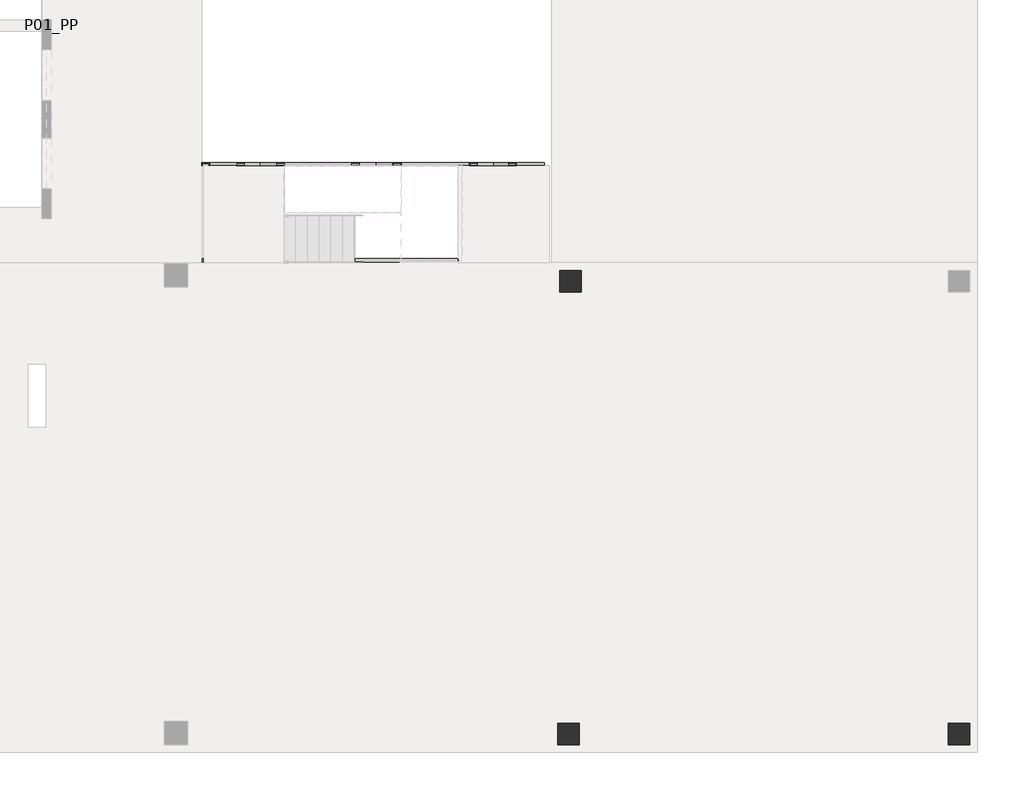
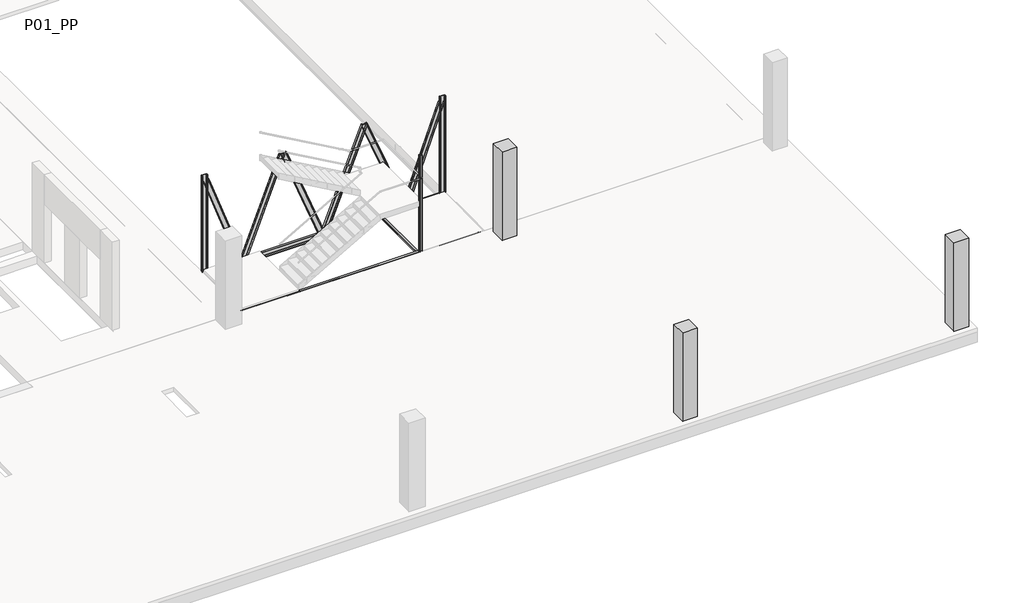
# One storey, part 3 of 8: 23 beams, 6 columns.
"""IFC4 building model written with IfcOpenShell, lengths in millimetres."""

from ifc_helpers import new_model, si_unit, frame, origin, place, context, project, spatial, polyline, circle_curve, ellipse_curve, outline, extrude, faceted_brep, transform, mapped, element, save
from ifc_brep_helpers import plane_surface, cylinder_surface, revolved_surface, advanced_brep
from components import ub_universal_beams_ipe_200x100_3e5072df, ub_universal_beams_ipe_200x100_6cde27da, ub_universal_beams_ipe_200x100_60d02f98, upn200x75_963e3bf5, upn200x75_de95b273, rhs_rectangular_hollow_section_column_100x80x5_0rhs_85d3d898, upn_200x75_fcc0ec56

model = new_model("IFC4")

# Units and contexts
model_context = context("Model", 3, world=origin())
ifc_project = project(units=[si_unit("LENGTHUNIT", "METRE", prefix="MILLI")], contexts=[model_context])

# Site, building, storey
site = spatial("IfcSite", under=ifc_project)
building = spatial("IfcBuilding", under=site)
storey = spatial("IfcBuildingStorey", under=building, Name="P01_PP", Elevation=11160.0)

# Beams
placement = place(None, origin())
element("IfcBeam", 1, ObjectType="M_Concrete-Rectangular Beam : 1500 x 550mm", at=placement, inside=storey, context=model_context, shape_type="AdvancedBrep", body=[
    advanced_brep(
    [(16958.7687297, -15610.5871866, 10610.0), (16958.7687297, -4560.5861501, 10610.0), (16958.7687297, -4560.5861501, 11010.0), (16958.7687297, -15610.5871866, 11010.0), (15458.7687297, -15610.5871866, 10610.0), (15458.7687297, -6060.5861501, 10610.0), (15458.7687297, -4560.5861501, 10610.0), (16808.3355556, -5035.6050875, 10610.0), (16158.3355556, -5035.6050875, 10610.0), (15458.7687297, -15610.5871866, 11010.0), (15458.7687297, -6060.5861501, 11010.0), (15458.7687297, -4560.5861501, 11010.0), (16808.3355556, -5035.6050875, 10860.0), (16158.3355556, -5035.6050875, 10860.0)],
    [
        (0, 1),
        (1, 2),
        (2, 3),
        (3, 0),
        (0, 4),
        (4, 5),
        (5, 6),
        (6, 1),
        (7, 8, circle_curve(frame((16483.3355556, -5035.6050875, 10610.0), z_axis=(0.0, 0.0, 1.0), x_axis=(1.0, 0.0, 0.0)), 325.0)),
        (8, 7, circle_curve(frame((16483.3355556, -5035.6050875, 10610.0), z_axis=(0.0, 0.0, 1.0), x_axis=(1.0, 0.0, 0.0)), 325.0)),
        (4, 9),
        (9, 10),
        (10, 11),
        (11, 6),
        (3, 9),
        (11, 2),
        (12, 13, circle_curve(frame((16483.3355556, -5035.6050875, 10860.0), z_axis=(0.0, 0.0, 1.0), x_axis=(1.0, 0.0, 0.0)), 325.0)),
        (13, 8),
        (7, 12),
        (13, 12, circle_curve(frame((16483.3355556, -5035.6050875, 10860.0), z_axis=(0.0, 0.0, 1.0), x_axis=(1.0, 0.0, 0.0)), 325.0)),
    ],
    [
        plane_surface(frame((16958.7687297, -6073.2861501, 11160.0), z_axis=(1.0, 0.0, 0.0), x_axis=(0.0, -1.0, 0.0))),
        plane_surface(frame((16958.7687297, -6073.2861501, 10610.0), z_axis=(0.0, 0.0, -1.0), x_axis=(0.0, -1.0, 0.0))),
        plane_surface(frame((15458.7687297, -6073.2861501, 10610.0), z_axis=(-1.0, 0.0, 0.0), x_axis=(0.0, -1.0, 0.0))),
        plane_surface(frame((-32477.5931093, -15610.5871866, 10885.0), z_axis=(0.0, -1.0, 0.0), x_axis=(0.0, 0.0, 1.0))),
        plane_surface(frame((16982.6978133, -4560.5861501, 10610.0), z_axis=(0.0, 1.0, 0.0), x_axis=(-1.0, 0.0, 0.0))),
        revolved_surface(polyline([(16808.3355556, -5035.6050875, 10860.0), (16808.3355556, -5035.6050875, 10610.0)]), (16483.3355556, -5035.6050875, 5480.0), (0.0, 0.0, 1.0)),
        plane_surface(frame((16808.3355556, -5035.6050875, 10860.0), z_axis=(0.0, 0.0, -1.0), x_axis=(0.0, 1.0, 0.0))),
        plane_surface(frame((-33190.2931093, -4560.5861796, 11010.0), z_axis=(0.0, 0.0, 1.0), x_axis=(0.0, 1.0, 0.0))),
    ],
    [
        (0, [[1, 2, 3, 4]]),
        (1, [[5, 6, 7, 8, -1], [9, 10]]),
        (2, [[-7, -6, 11, 12, 13, 14]]),
        (3, [[-5, -4, 15, -11]]),
        (4, [[-8, -14, 16, -2]]),
        (5, [[17, 18, -9, 19]]),
        (5, [[20, -19, -10, -18]]),
        (6, [[-17, -20]]),
        (7, [[-3, -16, -13, -12, -15]]),
    ],
),
])
element("IfcBeam", 2, ObjectType="M_Concrete-Rectangular Beam : 400 x 550mm", at=placement, inside=storey, context=model_context, shape_type="SweptSolid", body=[
    extrude(outline(polyline([(850.3958139, -15610.5871866), (450.3958139, -15610.5871866), (450.3958139, -6060.5861501), (850.3958139, -6060.5861501), (850.3958139, -15610.5871866)])), frame((0.0, 0.0, 10610.0), z_axis=(0.0, 0.0, 1.0), x_axis=(1.0, 0.0, 0.0)), (0.0, 0.0, 1.0), 400.0),
])
element("IfcBeam", 3, ObjectType="M_Concrete-Rectangular Beam : 400 x 550mm", at=placement, inside=storey, context=model_context, shape_type="SweptSolid", body=[
    extrude(outline(polyline([(2517.0624776, -15610.5871866), (2117.0624776, -15610.5871866), (2117.0624776, -6060.5861501), (2517.0624776, -6060.5861501), (2517.0624776, -15610.5871866)])), frame((0.0, 0.0, 10610.0), z_axis=(0.0, 0.0, 1.0), x_axis=(1.0, 0.0, 0.0)), (0.0, 0.0, 1.0), 400.0),
])
element("IfcBeam", 4, ObjectType="M_Concrete-Rectangular Beam : 400 x 550mm", at=placement, inside=storey, context=model_context, shape_type="SweptSolid", body=[
    extrude(outline(polyline([(4183.7291418, -15610.5871866), (3783.7291418, -15610.5871866), (3783.7291418, -6060.5861501), (4183.7291418, -6060.5861501), (4183.7291418, -15610.5871866)])), frame((0.0, 0.0, 10610.0), z_axis=(0.0, 0.0, 1.0), x_axis=(1.0, 0.0, 0.0)), (0.0, 0.0, 1.0), 400.0),
])
element("IfcBeam", 5, ObjectType="M_Concrete-Rectangular Beam : 400 x 550mm", at=placement, inside=storey, context=model_context, shape_type="SweptSolid", body=[
    extrude(outline(polyline([(5850.3958055, -15610.5871866), (5450.3958055, -15610.5871866), (5450.3958055, -6060.5861501), (5850.3958055, -6060.5861501), (5850.3958055, -15610.5871866)])), frame((0.0, 0.0, 10610.0), z_axis=(0.0, 0.0, 1.0), x_axis=(1.0, 0.0, 0.0)), (0.0, 0.0, 1.0), 400.0),
])
element("IfcBeam", 6, ObjectType="M_Concrete-Rectangular Beam : 400 x 550mm", at=placement, inside=storey, context=model_context, shape_type="SweptSolid", body=[
    extrude(outline(polyline([(7517.0624701, -15610.5871866), (7117.0624701, -15610.5871866), (7117.0624701, -6060.5861501), (7517.0624701, -6060.5861501), (7517.0624701, -15610.5871866)])), frame((0.0, 0.0, 10610.0), z_axis=(0.0, 0.0, 1.0), x_axis=(1.0, 0.0, 0.0)), (0.0, 0.0, 1.0), 400.0),
])
element("IfcBeam", 7, ObjectType="M_Concrete-Rectangular Beam : 400 x 550mm", at=placement, inside=storey, context=model_context, shape_type="SweptSolid", body=[
    extrude(outline(polyline([(9183.7291339, -15610.5871866), (8783.7291339, -15610.5871866), (8783.7291339, -6060.5861501), (9183.7291339, -6060.5861501), (9183.7291339, -15610.5871866)])), frame((0.0, 0.0, 10610.0), z_axis=(0.0, 0.0, 1.0), x_axis=(1.0, 0.0, 0.0)), (0.0, 0.0, 1.0), 400.0),
])
element("IfcBeam", 8, ObjectType="M_Concrete-Rectangular Beam : 400 x 550mm", at=placement, inside=storey, context=model_context, shape_type="SweptSolid", body=[
    extrude(outline(polyline([(10850.3957976, -15610.5871866), (10450.3957976, -15610.5871866), (10450.3957976, -6060.5861501), (10850.3957976, -6060.5861501), (10850.3957976, -15610.5871866)])), frame((0.0, 0.0, 10610.0), z_axis=(0.0, 0.0, 1.0), x_axis=(1.0, 0.0, 0.0)), (0.0, 0.0, 1.0), 400.0),
])
element("IfcBeam", 9, ObjectType="M_Concrete-Rectangular Beam : 400 x 550mm", at=placement, inside=storey, context=model_context, shape_type="SweptSolid", body=[
    extrude(outline(polyline([(12517.0624618, -15610.5871866), (12117.0624618, -15610.5871866), (12117.0624618, -6060.5861501), (12517.0624618, -6060.5861501), (12517.0624618, -15610.5871866)])), frame((0.0, 0.0, 10610.0), z_axis=(0.0, 0.0, 1.0), x_axis=(1.0, 0.0, 0.0)), (0.0, 0.0, 1.0), 400.0),
])
element("IfcBeam", 10, ObjectType="M_Concrete-Rectangular Beam : 400 x 550mm", at=placement, inside=storey, context=model_context, shape_type="SweptSolid", body=[
    extrude(outline(polyline([(14183.7291255, -15610.5871866), (13783.7291255, -15610.5871866), (13783.7291255, -6060.5861501), (14183.7291255, -6060.5861501), (14183.7291255, -15610.5871866)])), frame((0.0, 0.0, 10610.0), z_axis=(0.0, 0.0, 1.0), x_axis=(1.0, 0.0, 0.0)), (0.0, 0.0, 1.0), 400.0),
])
ub_universal_beams_ipe_200x100_shape = ub_universal_beams_ipe_200x100_3e5072df(model_context)
element("IfcBeam", 11, ObjectType="UB-Universal Beams : IPE 200x100", at=placement, inside=storey, context=model_context, shape_type="MappedRepresentation", body=[
    mapped(ub_universal_beams_ipe_200x100_shape, transform((5938.4982342, -3692.7089735, 11060.0), x_axis=(0.0, 1.0, 0.0), y_axis=(-1.0, 0.0, 0.0), z_axis=(0.0, 0.0, 1.0))),
])
ub_universal_beams_ipe_200x100_2_shape = ub_universal_beams_ipe_200x100_6cde27da(model_context)
element("IfcBeam", 12, ObjectType="UB-Universal Beams : IPE 200x100", at=placement, inside=storey, context=model_context, shape_type="MappedRepresentation", body=[
    mapped(ub_universal_beams_ipe_200x100_2_shape, transform((-861.4958562, -3698.1725705, 11060.0), x_axis=(0.0, 1.0, 0.0), y_axis=(-1.0, 0.0, 0.0), z_axis=(0.0, 0.0, 1.0))),
])
element("IfcBeam", 13, ObjectType="UB-Universal Beams : IPE 200x100", at=placement, inside=storey, context=model_context, shape_type="MappedRepresentation", body=[
    mapped(ub_universal_beams_ipe_200x100_2_shape, transform((3714.2873994, -3698.1725705, 11060.0), x_axis=(0.0, 1.0, 0.0), y_axis=(-1.0, 0.0, 0.0), z_axis=(0.0, 0.0, 1.0))),
])
element("IfcBeam", 14, ObjectType="UB-Universal Beams : IPE 200x100", at=placement, inside=storey, context=model_context, shape_type="MappedRepresentation", body=[
    mapped(ub_universal_beams_ipe_200x100_2_shape, transform((4826.3953909, -3698.1725705, 11060.0), x_axis=(0.0, 1.0, 0.0), y_axis=(-1.0, 0.0, 0.0), z_axis=(0.0, 0.0, 1.0))),
])
element("IfcBeam", 15, ObjectType="UB-Universal Beams : IPE 200x100", at=placement, inside=storey, context=model_context, shape_type="MappedRepresentation", body=[
    mapped(ub_universal_beams_ipe_200x100_2_shape, transform((-1511.4958562, -3698.1725705, 11060.0), x_axis=(0.0, 1.0, 0.0), y_axis=(-1.0, 0.0, 0.0), z_axis=(0.0, 0.0, 1.0))),
])
ub_universal_beams_ipe_200x100_3_shape = ub_universal_beams_ipe_200x100_60d02f98(model_context)
element("IfcBeam", 16, ObjectType="UB-Universal Beams : IPE 200x100", at=placement, inside=storey, context=model_context, shape_type="MappedRepresentation", body=[
    mapped(ub_universal_beams_ipe_200x100_3_shape, transform((1299.9319648, -4509.6213025, 11060.0), x_axis=(-1.0, 0.0, 0.0), y_axis=(0.0, -1.0, 0.0), z_axis=(0.0, 0.0, 1.0))),
])
element("IfcBeam", 17, ObjectType="M_MC Shapes : UPN200x75", at=placement, inside=storey, context=model_context, shape_type="AdvancedBrep", body=[
    advanced_brep(
    [(6004.0962238, -1999.8318856, 14677.0231066), (5816.4399019, -1999.8318792, 14746.1975588), (5816.4398993, -2074.8318792, 14746.1975588), (5817.3544192, -2074.8318792, 14745.8604457), (5821.0102045, -2071.5312566, 14744.5128389), (5830.4787586, -2010.9831252, 14741.022512), (5837.7903291, -2004.3818799, 14738.3272984), (5982.7457963, -2004.3818849, 14684.893367), (5990.0573664, -2010.9831306, 14682.1981534), (5999.5259163, -2071.5312627, 14678.7078265), (6003.1817014, -2074.8318856, 14677.3602197), (6004.0962213, -2074.8318856, 14677.0231066), (4457.5086957, -1999.8318327, 11059.6915777), (4672.3717464, -1999.83184, 11064.3234872), (4457.5086931, -2074.8318327, 11059.6915777), (4458.5558016, -2074.8318327, 11059.7141507), (4462.7416088, -2071.5312101, 11059.8043862), (4473.5829295, -2010.9830787, 11060.038098), (4481.9545438, -2004.3818335, 11060.218569), (4647.925898, -2004.3818392, 11063.7964959), (4656.2975118, -2010.9830849, 11063.976967), (4667.1388283, -2071.5312171, 11064.2106786), (4671.3246353, -2074.83184, 11064.3009141), (4672.3717438, -2074.83184, 11064.3234871)],
    [
        (0, 1),
        (1, 2),
        (2, 3),
        (3, 4, circle_curve(frame((5817.3544194, -2070.8818792, 14745.8604457), z_axis=(0.34587226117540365, -1.1846646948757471e-08, 0.9382816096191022), x_axis=(-3.425150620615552e-08, -0.9999999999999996, 0.0)), 3.95)),
        (4, 5),
        (5, 6, circle_curve(frame((5837.7903289, -2012.2818799, 14738.3272984), z_axis=(-0.34587226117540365, 1.1846646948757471e-08, -0.9382816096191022), x_axis=(-3.425150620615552e-08, -0.9999999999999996, 0.0)), 7.9)),
        (6, 7),
        (7, 8, circle_curve(frame((5982.745796, -2012.2818849, 14684.893367), z_axis=(-0.34587226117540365, 1.1846646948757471e-08, -0.9382816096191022), x_axis=(-3.425150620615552e-08, -0.9999999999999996, 0.0)), 7.9)),
        (8, 9),
        (9, 10, circle_curve(frame((6003.1817015, -2070.8818856, 14677.3602197), z_axis=(0.34587226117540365, -1.1846646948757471e-08, 0.9382816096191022), x_axis=(-3.425150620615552e-08, -0.9999999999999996, 0.0)), 3.95)),
        (10, 11),
        (11, 0),
        (12, 1),
        (0, 13),
        (13, 12),
        (14, 2),
        (12, 14),
        (15, 3),
        (14, 15),
        (16, 4),
        (15, 16, ellipse_curve(frame((4458.5558018, -2070.8818327, 11059.7141507), z_axis=(-0.02155248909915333, -7.189119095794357e-12, 0.9997677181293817), x_axis=(-0.9997677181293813, 3.23483511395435e-08, -0.021552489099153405)), 4.2445312, 3.95)),
        (16, 17),
        (17, 5),
        (18, 6),
        (17, 18, ellipse_curve(frame((4481.9545435, -2012.2818335, 11060.218569), z_axis=(0.02155248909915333, 7.189119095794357e-12, -0.9997677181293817), x_axis=(0.9997677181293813, -3.23483511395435e-08, 0.021552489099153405)), 8.4890624, 7.9)),
        (19, 7),
        (18, 19),
        (20, 8),
        (19, 20, ellipse_curve(frame((4647.9258977, -2012.2818392, 11063.7964959), z_axis=(0.02155248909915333, 7.189119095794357e-12, -0.9997677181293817), x_axis=(0.9997677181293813, -3.23483511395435e-08, 0.021552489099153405)), 8.4890624, 7.9)),
        (20, 21),
        (21, 9),
        (22, 10),
        (21, 22, ellipse_curve(frame((4671.3246354, -2070.88184, 11064.3009141), z_axis=(-0.02155248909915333, -7.189119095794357e-12, 0.9997677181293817), x_axis=(-0.9997677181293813, 3.23483511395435e-08, -0.021552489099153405)), 4.2445312, 3.95)),
        (23, 11),
        (22, 23),
        (23, 13),
    ],
    [
        plane_surface(frame((5910.2680625, -2010.7318824, 14711.6103327), z_axis=(0.3458722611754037, -1.1846646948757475e-08, 0.9382816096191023), x_axis=(0.9382816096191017, -3.2137557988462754e-08, -0.3458722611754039))),
        plane_surface(frame((4658.0997322, -1999.8318395, 11025.6063946), z_axis=(3.425150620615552e-08, 0.9999999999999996, 0.0), x_axis=(0.34587226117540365, -1.1846646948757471e-08, 0.9382816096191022))),
        plane_surface(frame((4470.4434103, -1999.8318331, 11094.7808468), z_axis=(-0.9382816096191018, 3.213755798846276e-08, 0.3458722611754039), x_axis=(0.34587226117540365, -1.1846646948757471e-08, 0.9382816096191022))),
        plane_surface(frame((4470.4434078, -2074.8318331, 11094.7808468), z_axis=(-3.425150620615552e-08, -0.9999999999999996, 0.0), x_axis=(0.34587226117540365, -1.1846646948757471e-08, 0.9382816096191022))),
        cylinder_surface(frame((4471.3579278, -2070.8818331, 11094.4437337), z_axis=(-0.34587226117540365, 1.1846646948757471e-08, -0.9382816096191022), x_axis=(-3.425150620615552e-08, -0.9999999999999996, 0.0)), 3.95),
        plane_surface(frame((4477.8558332, -2053.3568334, 11092.048456), z_axis=(0.9255152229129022, -0.16439933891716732, -0.34116627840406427), x_axis=(0.34587226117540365, -1.1846646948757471e-08, 0.9382816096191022))),
        revolved_surface(polyline([(5837.790328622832, -2020.1818799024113, 14738.327298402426), (4480.8798774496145, -2020.1818334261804, 11057.303217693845)]), (4491.7938373, -2012.2818338, 11086.9105864), (0.34587226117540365, -1.1846646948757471e-08, 0.9382816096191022)),
        plane_surface(frame((4491.7938375, -2004.3818338, 11086.9105864), z_axis=(-3.425150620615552e-08, -0.9999999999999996, 0.0), x_axis=(0.34587226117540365, -1.1846646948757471e-08, 0.9382816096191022))),
        revolved_surface(polyline([(5982.745795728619, -2020.1818849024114, 14684.893367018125), (4646.851231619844, -2020.1818391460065, 11060.881144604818)]), (4636.7493044, -2012.2818388, 11033.476655), (0.34587226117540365, -1.1846646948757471e-08, 0.9382816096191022)),
        plane_surface(frame((4650.6873057, -2053.3568393, 11028.3387854), z_axis=(-0.9255152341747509, -0.1643992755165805, 0.3411662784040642), x_axis=(0.34587226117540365, -1.1846646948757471e-08, 0.9382816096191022))),
        cylinder_surface(frame((4657.1852099, -2070.8818395, 11025.9435077), z_axis=(-0.34587226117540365, 1.1846646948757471e-08, -0.9382816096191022), x_axis=(-3.425150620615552e-08, -0.9999999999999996, 0.0)), 3.95),
        plane_surface(frame((4657.1852098, -2074.8318395, 11025.9435077), z_axis=(-3.425150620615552e-08, -0.9999999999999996, 0.0), x_axis=(0.34587226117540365, -1.1846646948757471e-08, 0.9382816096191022))),
        plane_surface(frame((4658.0997297, -2074.8318395, 11025.6063946), z_axis=(0.9382816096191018, -3.213755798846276e-08, -0.3458722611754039), x_axis=(0.34587226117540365, -1.1846646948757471e-08, 0.9382816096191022))),
        plane_surface(frame((4672.3717458, -2010.73184, 11064.3234872), z_axis=(0.02155248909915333, 7.189119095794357e-12, -0.9997677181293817), x_axis=(0.9997677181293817, 0.0, 0.02155248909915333))),
    ],
    [
        (0, [[1, 2, 3, 4, 5, 6, 7, 8, 9, 10, 11, 12]]),
        (1, [[13, -1, 14, 15]]),
        (2, [[16, -2, -13, 17]]),
        (3, [[18, -3, -16, 19]]),
        (4, [[20, -4, -18, 21]]),
        (5, [[22, 23, -5, -20]]),
        (6, [[24, -6, -23, 25]]),
        (7, [[26, -7, -24, 27]]),
        (8, [[28, -8, -26, 29]]),
        (9, [[30, 31, -9, -28]]),
        (10, [[32, -10, -31, 33]]),
        (11, [[34, -11, -32, 35]]),
        (12, [[-14, -12, -34, 36]]),
        (13, [[-36, -35, -33, -30, -29, -27, -25, -22, -21, -19, -17, -15]]),
    ],
),
])
element("IfcBeam", 18, ObjectType="M_MC Shapes : UPN200x75", at=placement, inside=storey, context=model_context, shape_type="AdvancedBrep", body=[
    advanced_brep(
    [(3164.3827197, -1999.831887, 14772.8562513), (2978.7028505, -1999.8318812, 14847.1730474), (2978.7028482, -2074.8318812, 14847.1730474), (2979.6077361, -2074.8318812, 14846.8108737), (2983.2250175, -2071.5312586, 14845.3630874), (2992.5938458, -2010.9831271, 14841.613294), (2999.8284086, -2004.3818818, 14838.7177215), (3143.2571613, -2004.3818863, 14781.3115772), (3150.4917237, -2010.983132, 14778.4160047), (3159.8605482, -2071.5312641, 14774.6662112), (3163.4778295, -2074.8318869, 14773.218425), (3164.3827174, -2074.831887, 14772.8562513), (1462.7731108, -1999.8318339, 11059.6357682), (1680.1857167, -1999.8318407, 11064.602939), (1462.7731084, -2074.8318339, 11059.6357681), (1463.8326419, -2074.831834, 11059.659975), (1468.0681176, -2071.5312114, 11059.7567419), (1479.0380807, -2010.9830799, 11060.0073698), (1487.5090322, -2004.3818347, 11060.2009035), (1655.449795, -2004.3818399, 11064.0378037), (1663.9207461, -2010.9830857, 11064.2313374), (1674.8907054, -2071.5312178, 11064.4819653), (1679.1261809, -2074.8318407, 11064.5787321), (1680.1857143, -2074.8318407, 11064.602939)],
    [
        (0, 1),
        (1, 2),
        (2, 3),
        (3, 4, circle_curve(frame((2979.6077362, -2070.8818812, 14846.8108737), z_axis=(0.37158398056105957, -1.1582592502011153e-08, 0.9283993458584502), x_axis=(-3.117085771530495e-08, -0.9999999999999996, 0.0)), 3.95)),
        (4, 5),
        (5, 6, circle_curve(frame((2999.8284084, -2012.2818818, 14838.7177215), z_axis=(-0.37158398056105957, 1.1582592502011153e-08, -0.9283993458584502), x_axis=(-3.117085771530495e-08, -0.9999999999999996, 0.0)), 7.9)),
        (6, 7),
        (7, 8, circle_curve(frame((3143.257161, -2012.2818863, 14781.3115772), z_axis=(-0.37158398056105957, 1.1582592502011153e-08, -0.9283993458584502), x_axis=(-3.117085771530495e-08, -0.9999999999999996, 0.0)), 7.9)),
        (8, 9),
        (9, 10, circle_curve(frame((3163.4778296, -2070.8818869, 14773.218425), z_axis=(0.37158398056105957, -1.1582592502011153e-08, 0.9283993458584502), x_axis=(-3.117085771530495e-08, -0.9999999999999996, 0.0)), 3.95)),
        (10, 11),
        (11, 0),
        (12, 1),
        (0, 13),
        (13, 12),
        (14, 2),
        (12, 14),
        (15, 3),
        (14, 15),
        (16, 4),
        (15, 16, ellipse_curve(frame((1463.832642, -2070.881834, 11059.659975), z_axis=(-0.022840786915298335, -6.423558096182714e-12, 0.9997391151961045), x_axis=(-0.9997391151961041, 2.9480286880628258e-08, -0.02284078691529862)), 4.2950195, 3.95)),
        (16, 17),
        (17, 5),
        (18, 6),
        (17, 18, ellipse_curve(frame((1487.5090319, -2012.2818347, 11060.2009035), z_axis=(0.022840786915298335, 6.423558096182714e-12, -0.9997391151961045), x_axis=(0.9997391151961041, -2.9480286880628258e-08, 0.02284078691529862)), 8.5900389, 7.9)),
        (19, 7),
        (18, 19),
        (20, 8),
        (19, 20, ellipse_curve(frame((1655.4497948, -2012.2818399, 11064.0378037), z_axis=(0.022840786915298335, 6.423558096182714e-12, -0.9997391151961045), x_axis=(0.9997391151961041, -2.9480286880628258e-08, 0.02284078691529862)), 8.5900389, 7.9)),
        (20, 21),
        (21, 9),
        (22, 10),
        (21, 22, ellipse_curve(frame((1679.126181, -2070.8818407, 11064.5787321), z_axis=(-0.022840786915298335, -6.423558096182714e-12, 0.9997391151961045), x_axis=(-0.9997391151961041, 2.9480286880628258e-08, -0.02284078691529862)), 4.2950195, 3.95)),
        (23, 11),
        (22, 23),
        (23, 13),
    ],
    [
        plane_surface(frame((3071.5427848, -2010.7318841, 14810.0146493), z_axis=(0.3715839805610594, -1.1582592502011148e-08, 0.9283993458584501), x_axis=(0.9283993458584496, -2.8939003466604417e-08, -0.37158398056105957))),
        plane_surface(frame((1663.4807054, -1999.8318402, 11022.8656135), z_axis=(3.117085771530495e-08, 0.9999999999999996, 0.0), x_axis=(0.37158398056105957, -1.1582592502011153e-08, 0.9283993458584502))),
        plane_surface(frame((1477.8008362, -1999.8318344, 11097.1824096), z_axis=(-0.9283993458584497, 2.893900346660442e-08, 0.3715839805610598), x_axis=(0.37158398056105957, -1.1582592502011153e-08, 0.9283993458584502))),
        plane_surface(frame((1477.8008339, -2074.8318344, 11097.1824096), z_axis=(-3.117085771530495e-08, -0.9999999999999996, 0.0), x_axis=(0.37158398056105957, -1.1582592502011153e-08, 0.9283993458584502))),
        cylinder_surface(frame((1478.7057219, -2070.8818344, 11096.8202359), z_axis=(-0.37158398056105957, 1.1582592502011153e-08, -0.9283993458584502), x_axis=(-3.117085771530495e-08, -0.9999999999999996, 0.0)), 3.95),
        plane_surface(frame((1485.1351894, -2053.3568346, 11094.2468962), z_axis=(0.915767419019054, -0.16439933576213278, -0.3665281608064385), x_axis=(0.37158398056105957, -1.1582592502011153e-08, 0.9283993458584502))),
        revolved_surface(polyline([(2999.828408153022, -2020.1818818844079, 14838.717721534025), (1486.2555885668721, -2020.1818347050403, 11057.069186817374)]), (1498.9263941, -2012.2818351, 11088.7270837), (0.37158398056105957, -1.1582592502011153e-08, 0.9283993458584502)),
        plane_surface(frame((1498.9263944, -2004.3818351, 11088.7270837), z_axis=(-3.117085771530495e-08, -0.9999999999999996, 0.0), x_axis=(0.37158398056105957, -1.1582592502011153e-08, 0.9283993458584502))),
        revolved_surface(polyline([(3143.2571608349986, -2020.1818862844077, 14781.311577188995), (1654.1963514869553, -2020.1818398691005, 11060.906087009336)]), (1642.3551468, -2012.2818395, 11031.3209394), (0.37158398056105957, -1.1582592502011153e-08, 0.9283993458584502)),
        plane_surface(frame((1656.1463489, -2053.35684, 11025.8011269), z_axis=(-0.9157674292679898, -0.16439927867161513, 0.3665281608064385), x_axis=(0.37158398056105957, -1.1582592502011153e-08, 0.9283993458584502))),
        cylinder_surface(frame((1662.5758153, -2070.8818402, 11023.2277872), z_axis=(-0.37158398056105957, 1.1582592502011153e-08, -0.9283993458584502), x_axis=(-3.117085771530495e-08, -0.9999999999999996, 0.0)), 3.95),
        plane_surface(frame((1662.5758152, -2074.8318402, 11023.2277872), z_axis=(-3.117085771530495e-08, -0.9999999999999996, 0.0), x_axis=(0.37158398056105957, -1.1582592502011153e-08, 0.9283993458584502))),
        plane_surface(frame((1663.4807031, -2074.8318402, 11022.8656135), z_axis=(0.9283993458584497, -2.893900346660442e-08, -0.3715839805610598), x_axis=(0.37158398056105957, -1.1582592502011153e-08, 0.9283993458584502))),
        plane_surface(frame((1680.1857162, -2010.7318407, 11064.602939), z_axis=(0.022840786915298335, 6.423558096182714e-12, -0.9997391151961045), x_axis=(0.9997391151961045, 0.0, 0.022840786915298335))),
    ],
    [
        (0, [[1, 2, 3, 4, 5, 6, 7, 8, 9, 10, 11, 12]]),
        (1, [[13, -1, 14, 15]]),
        (2, [[16, -2, -13, 17]]),
        (3, [[18, -3, -16, 19]]),
        (4, [[20, -4, -18, 21]]),
        (5, [[22, 23, -5, -20]]),
        (6, [[24, -6, -23, 25]]),
        (7, [[26, -7, -24, 27]]),
        (8, [[28, -8, -26, 29]]),
        (9, [[30, 31, -9, -28]]),
        (10, [[32, -10, -31, 33]]),
        (11, [[34, -11, -32, 35]]),
        (12, [[-14, -12, -34, 36]]),
        (13, [[-36, -35, -33, -30, -29, -27, -25, -22, -21, -19, -17, -15]]),
    ],
),
])
element("IfcBeam", 19, ObjectType="M_MC Shapes : UPN200x75", at=placement, inside=storey, context=model_context, shape_type="AdvancedBrep", body=[
    advanced_brep(
    [(13.5328228, -1999.8318877, 14683.2625197), (13.5328252, -2074.8318877, 14683.2625197), (14.4412282, -2074.8318877, 14683.6157843), (18.0725611, -2071.5312648, 14685.0279562), (27.4777798, -2010.9831327, 14688.685508), (34.7404457, -2004.381887, 14691.5098519), (178.7263623, -2004.3818826, 14747.5038544), (185.9890285, -2010.9831278, 14750.3281983), (195.394251, -2071.5312593, 14753.9857501), (199.0255841, -2074.8318819, 14755.397922), (199.9339871, -2074.8318819, 14755.7511866), (199.9339848, -1999.8318819, 14755.7511866), (1637.2518942, -1999.8318371, 11059.7564874), (1420.7764821, -1999.8318439, 11064.6023256), (1637.2518966, -2074.8318371, 11059.7564873), (1636.1969304, -2074.8318371, 11059.7801029), (1631.9797124, -2071.5312145, 11059.874506), (1621.0570372, -2010.9830831, 11060.1190119), (1612.6226012, -2004.3818379, 11060.3078182), (1445.4057754, -2004.3818431, 11064.0509947), (1436.9713399, -2010.9830888, 11064.239801), (1426.0486684, -2071.531221, 11064.4843068), (1421.8314506, -2074.8318438, 11064.5787099), (1420.7764845, -2074.8318439, 11064.6023255)],
    [
        (0, 1),
        (1, 2),
        (2, 3, circle_curve(frame((14.4412281, -2070.8818877, 14683.6157843), z_axis=(-0.36244333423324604, -1.1294456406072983e-08, 0.9320058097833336), x_axis=(3.116199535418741e-08, -0.9999999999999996, 0.0)), 3.95)),
        (3, 4),
        (4, 5, circle_curve(frame((34.7404459, -2012.281887, 14691.5098519), z_axis=(0.36244333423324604, 1.1294456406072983e-08, -0.9320058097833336), x_axis=(3.116199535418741e-08, -0.9999999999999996, 0.0)), 7.9)),
        (5, 6),
        (6, 7, circle_curve(frame((178.7263625, -2012.2818826, 14747.5038544), z_axis=(0.36244333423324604, 1.1294456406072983e-08, -0.9320058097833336), x_axis=(3.116199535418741e-08, -0.9999999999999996, 0.0)), 7.9)),
        (7, 8),
        (8, 9, circle_curve(frame((199.025584, -2070.8818819, 14755.397922), z_axis=(-0.36244333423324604, -1.1294456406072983e-08, 0.9320058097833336), x_axis=(3.116199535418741e-08, -0.9999999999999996, 0.0)), 3.95)),
        (9, 10),
        (10, 11),
        (11, 0),
        (12, 13),
        (13, 0),
        (11, 12),
        (14, 12),
        (10, 14),
        (15, 14),
        (9, 15),
        (16, 15, ellipse_curve(frame((1636.1969303, -2070.8818371, 11059.7801029), z_axis=(0.022379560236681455, -2.7212237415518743e-10, 0.9997495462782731), x_axis=(0.9997495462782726, 2.881734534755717e-08, -0.022379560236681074)), 4.2764604, 3.95)),
        (8, 16),
        (7, 17),
        (17, 16),
        (18, 17, ellipse_curve(frame((1612.6226015, -2012.2818379, 11060.3078182), z_axis=(-0.022379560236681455, 2.7212237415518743e-10, -0.9997495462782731), x_axis=(-0.9997495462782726, -2.881734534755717e-08, 0.022379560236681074)), 8.5529209, 7.9)),
        (6, 18),
        (19, 18),
        (5, 19),
        (20, 19, ellipse_curve(frame((1445.4057757, -2012.2818431, 11064.0509947), z_axis=(-0.022379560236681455, 2.7212237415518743e-10, -0.9997495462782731), x_axis=(-0.9997495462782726, -2.881734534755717e-08, 0.022379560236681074)), 8.5529209, 7.9)),
        (4, 20),
        (3, 21),
        (21, 20),
        (22, 21, ellipse_curve(frame((1421.8314505, -2070.8818438, 11064.5787099), z_axis=(0.022379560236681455, -2.7212237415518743e-10, 0.9997495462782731), x_axis=(0.9997495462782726, 2.881734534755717e-08, -0.022379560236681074)), 4.2764604, 3.95)),
        (2, 22),
        (23, 22),
        (1, 23),
        (13, 23),
    ],
    [
        plane_surface(frame((106.7334042, -2010.7318848, 14719.5068531), z_axis=(-0.3624433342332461, -1.1294456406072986e-08, 0.9320058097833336), x_axis=(-0.9320058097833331, -2.9043161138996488e-08, -0.36244333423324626))),
        plane_surface(frame((1436.9927737, -1999.8318434, 11022.9029024), z_axis=(-3.11619953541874e-08, 0.9999999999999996, 0.0), x_axis=(-0.36244333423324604, -1.1294456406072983e-08, 0.9320058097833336))),
        plane_surface(frame((1623.3939357, -1999.8318375, 11095.3915692), z_axis=(0.9320058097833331, 2.904316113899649e-08, 0.3624433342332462), x_axis=(-0.36244333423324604, -1.1294456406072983e-08, 0.9320058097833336))),
        plane_surface(frame((1623.393938, -2074.8318375, 11095.3915692), z_axis=(3.11619953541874e-08, -0.9999999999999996, 0.0), x_axis=(-0.36244333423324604, -1.1294456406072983e-08, 0.9320058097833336))),
        cylinder_surface(frame((1622.4855349, -2070.8818376, 11095.0383047), z_axis=(0.36244333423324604, 1.1294456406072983e-08, -0.9320058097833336), x_axis=(3.116199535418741e-08, -0.9999999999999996, 0.0)), 3.95),
        plane_surface(frame((1616.0310914, -2053.3568378, 11092.5282669), z_axis=(-0.9193248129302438, -0.1643993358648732, -0.357511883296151), x_axis=(-0.36244333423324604, -1.1294456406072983e-08, 0.9320058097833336))),
        revolved_surface(polyline([(178.72636277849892, -2020.1818825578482, 14747.50385444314), (1613.810534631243, -2020.1818378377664, 11057.253105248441)]), (1602.1863134, -2012.2818382, 11087.1442371), (-0.36244333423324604, -1.1294456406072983e-08, 0.9320058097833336)),
        plane_surface(frame((1602.1863131, -2004.3818382, 11087.1442371), z_axis=(3.11619953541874e-08, -0.9999999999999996, 0.0), x_axis=(-0.36244333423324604, -1.1294456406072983e-08, 0.9320058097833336))),
        revolved_surface(polyline([(34.74044615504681, -2020.1818870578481, 14691.509851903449), (1446.5937088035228, -2020.1818430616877, 11060.99628173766)]), (1458.2003968, -2012.2818427, 11031.1502345), (-0.36244333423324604, -1.1294456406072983e-08, 0.9320058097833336)),
        plane_surface(frame((1444.3556213, -2053.3568431, 11025.7662047), z_axis=(0.9193248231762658, -0.16439927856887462, 0.3575118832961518), x_axis=(-0.36244333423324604, -1.1294456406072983e-08, 0.9320058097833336))),
        cylinder_surface(frame((1437.9011789, -2070.8818433, 11023.2561669), z_axis=(0.36244333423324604, 1.1294456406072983e-08, -0.9320058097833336), x_axis=(3.116199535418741e-08, -0.9999999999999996, 0.0)), 3.95),
        plane_surface(frame((1437.9011791, -2074.8318433, 11023.2561669), z_axis=(3.11619953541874e-08, -0.9999999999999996, 0.0), x_axis=(-0.36244333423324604, -1.1294456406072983e-08, 0.9320058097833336))),
        plane_surface(frame((1436.992776, -2074.8318434, 11022.9029024), z_axis=(-0.9320058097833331, -2.904316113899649e-08, -0.3624433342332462), x_axis=(-0.36244333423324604, -1.1294456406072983e-08, 0.9320058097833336))),
        plane_surface(frame((1420.7764824, -2010.7318439, 11064.6023255), z_axis=(-0.022379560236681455, 2.7212237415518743e-10, -0.9997495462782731), x_axis=(0.9997495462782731, 6.091504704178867e-12, -0.022379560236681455))),
    ],
    [
        (0, [[1, 2, 3, 4, 5, 6, 7, 8, 9, 10, 11, 12]]),
        (1, [[13, 14, -12, 15]]),
        (2, [[16, -15, -11, 17]]),
        (3, [[18, -17, -10, 19]]),
        (4, [[20, -19, -9, 21]]),
        (5, [[-21, -8, 22, 23]]),
        (6, [[24, -22, -7, 25]]),
        (7, [[26, -25, -6, 27]]),
        (8, [[28, -27, -5, 29]]),
        (9, [[-29, -4, 30, 31]]),
        (10, [[32, -30, -3, 33]]),
        (11, [[34, -33, -2, 35]]),
        (12, [[36, -35, -1, -14]]),
        (13, [[-13, -16, -18, -20, -23, -24, -26, -28, -31, -32, -34, -36]]),
    ],
),
])
element("IfcBeam", 20, ObjectType="M_MC Shapes : UPN200x75", at=placement, inside=storey, context=model_context, shape_type="AdvancedBrep", body=[
    advanced_brep(
    [(128.8162244, -1999.8318863, 14682.599183), (-57.2579246, -1999.8318805, 14755.9231973), (-57.2579269, -2074.8318805, 14755.9231973), (-56.3511176, -2074.8318805, 14755.5658618), (-52.7261551, -2071.5312579, 14754.1374162), (-43.3374327, -2010.9831264, 14750.4377154), (-36.0875076, -2004.3818811, 14747.5808242), (107.6458072, -2004.3818856, 14690.9415561), (114.8957318, -2010.9831313, 14688.0846649), (124.2844504, -2071.5312634, 14684.3849641), (127.9094127, -2074.8318862, 14682.9565186), (128.8162221, -2074.8318863, 14682.599183), (-1513.7838955, -1999.8318351, 11059.7012518), (-1296.8844361, -1999.8318418, 11064.6025428), (-1513.7838978, -2074.8318351, 11059.7012518), (-1512.7268651, -2074.8318351, 11059.7251376), (-1508.5013862, -2071.5312125, 11059.820621), (-1497.5573148, -2010.9830811, 11060.0679249), (-1489.1063569, -2004.3818359, 11060.2588918), (-1321.561975, -2004.3818411, 11064.0449029), (-1313.1110175, -2010.9830868, 11064.2358697), (-1302.1669499, -2071.5312189, 11064.4831735), (-1297.9414712, -2074.8318418, 11064.5786569), (-1296.8844385, -2074.8318418, 11064.6025427)],
    [
        (0, 1),
        (1, 2),
        (2, 3),
        (3, 4, circle_curve(frame((-56.3511175, -2070.8818805, 14755.5658618), z_axis=(0.36662007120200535, -1.1424611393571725e-08, 0.9303707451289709), x_axis=(-3.116198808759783e-08, -0.9999999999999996, 0.0)), 3.95)),
        (4, 5),
        (5, 6, circle_curve(frame((-36.0875079, -2012.2818811, 14747.5808242), z_axis=(-0.36662007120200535, 1.1424611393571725e-08, -0.9303707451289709), x_axis=(-3.116198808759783e-08, -0.9999999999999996, 0.0)), 7.9)),
        (6, 7),
        (7, 8, circle_curve(frame((107.6458069, -2012.2818856, 14690.9415561), z_axis=(-0.36662007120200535, 1.1424611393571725e-08, -0.9303707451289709), x_axis=(-3.116198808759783e-08, -0.9999999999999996, 0.0)), 7.9)),
        (8, 9),
        (9, 10, circle_curve(frame((127.9094128, -2070.8818862, 14682.9565186), z_axis=(0.36662007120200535, -1.1424611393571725e-08, 0.9303707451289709), x_axis=(-3.116198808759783e-08, -0.9999999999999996, 0.0)), 3.95)),
        (10, 11),
        (11, 0),
        (12, 1),
        (0, 13),
        (13, 12),
        (14, 2),
        (12, 14),
        (15, 3),
        (14, 15),
        (16, 4),
        (15, 16, ellipse_curve(frame((-1512.726865, -2070.8818351, 11059.7251376), z_axis=(-0.022591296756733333, -9.714311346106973e-11, 0.9997447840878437), x_axis=(-0.9997447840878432, 2.9248387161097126e-08, -0.022591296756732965)), 4.2848579, 3.95)),
        (16, 17),
        (17, 5),
        (18, 6),
        (17, 18, ellipse_curve(frame((-1489.1063571, -2012.2818359, 11060.2588917), z_axis=(0.022591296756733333, 9.714311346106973e-11, -0.9997447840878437), x_axis=(0.9997447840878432, -2.9248387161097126e-08, 0.022591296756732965)), 8.5697158, 7.9)),
        (19, 7),
        (18, 19),
        (20, 8),
        (19, 20, ellipse_curve(frame((-1321.5619752, -2012.2818411, 11064.0449028), z_axis=(0.022591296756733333, 9.714311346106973e-11, -0.9997447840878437), x_axis=(0.9997447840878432, -2.9248387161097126e-08, 0.022591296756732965)), 8.5697158, 7.9)),
        (20, 21),
        (21, 9),
        (22, 10),
        (21, 22, ellipse_curve(frame((-1297.941471, -2070.8818418, 11064.5786569), z_axis=(-0.022591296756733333, -9.714311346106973e-11, 0.9997447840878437), x_axis=(-0.9997447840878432, 2.9248387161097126e-08, -0.022591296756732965)), 4.2848579, 3.95)),
        (23, 11),
        (22, 23),
        (23, 13),
    ],
    [
        plane_surface(frame((35.7791496, -2010.7318834, 14719.2611902), z_axis=(0.36662007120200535, -1.1424611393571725e-08, 0.9303707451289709), x_axis=(0.9303707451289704, -2.8992201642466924e-08, -0.3666200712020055))),
        plane_surface(frame((-1313.3204877, -1999.8318413, 11022.89282), z_axis=(3.116198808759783e-08, 0.9999999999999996, 0.0), x_axis=(0.36662007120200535, -1.1424611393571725e-08, 0.9303707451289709))),
        plane_surface(frame((-1499.3946367, -1999.8318355, 11096.2168342), z_axis=(-0.9303707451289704, 2.8992201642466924e-08, 0.3666200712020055), x_axis=(0.36662007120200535, -1.1424611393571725e-08, 0.9303707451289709))),
        plane_surface(frame((-1499.394639, -2074.8318355, 11096.2168342), z_axis=(-3.116198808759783e-08, -0.9999999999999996, 0.0), x_axis=(0.36662007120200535, -1.1424611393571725e-08, 0.9303707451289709))),
        cylinder_surface(frame((-1498.4878295, -2070.8818356, 11095.8594987), z_axis=(-0.36662007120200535, 1.1424611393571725e-08, -0.9303707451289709), x_axis=(-3.116198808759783e-08, -0.9999999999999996, 0.0)), 3.95),
        plane_surface(frame((-1492.0447095, -2053.3568358, 11093.3205357), z_axis=(0.9177119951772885, -0.1643993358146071, -0.3616317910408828), x_axis=(0.36662007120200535, -1.1424611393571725e-08, 0.9303707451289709))),
        revolved_surface(polyline([(-36.087508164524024, -2020.1818811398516, 14747.580824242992), (-1490.3239571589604, -2020.1818358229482, 11057.168992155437)]), (-1478.22422, -2012.2818362, 11087.8744612), (0.36662007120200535, -1.1424611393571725e-08, 0.9303707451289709)),
        plane_surface(frame((-1478.2242197, -2004.3818362, 11087.8744612), z_axis=(-3.116198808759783e-08, -0.9999999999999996, 0.0), x_axis=(0.36662007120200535, -1.1424611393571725e-08, 0.9303707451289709))),
        revolved_surface(polyline([(107.6458067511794, -2020.1818856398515, 14690.941556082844), (-1322.7795752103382, -2020.1818410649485, 11060.955003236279)]), (-1334.4909051, -2012.2818407, 11031.235193), (0.36662007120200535, -1.1424611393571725e-08, 0.9303707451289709)),
        plane_surface(frame((-1320.6704182, -2053.3568411, 11025.7891186), z_axis=(-0.9177120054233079, -0.16439927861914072, 0.3616317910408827), x_axis=(0.36662007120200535, -1.1424611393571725e-08, 0.9303707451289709))),
        cylinder_surface(frame((-1314.2272992, -2070.8818413, 11023.2501555), z_axis=(-0.36662007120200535, 1.1424611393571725e-08, -0.9303707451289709), x_axis=(-3.116198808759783e-08, -0.9999999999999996, 0.0)), 3.95),
        plane_surface(frame((-1314.2272994, -2074.8318413, 11023.2501555), z_axis=(-3.116198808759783e-08, -0.9999999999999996, 0.0), x_axis=(0.36662007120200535, -1.1424611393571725e-08, 0.9303707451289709))),
        plane_surface(frame((-1313.32049, -2074.8318413, 11022.89282), z_axis=(0.9303707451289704, -2.8992201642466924e-08, -0.3666200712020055), x_axis=(0.36662007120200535, -1.1424611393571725e-08, 0.9303707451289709))),
        plane_surface(frame((-1296.8844366, -2010.7318418, 11064.6025428), z_axis=(0.022591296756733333, 9.714311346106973e-11, -0.9997447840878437), x_axis=(0.9997447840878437, -2.195149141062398e-12, 0.022591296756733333))),
    ],
    [
        (0, [[1, 2, 3, 4, 5, 6, 7, 8, 9, 10, 11, 12]]),
        (1, [[13, -1, 14, 15]]),
        (2, [[16, -2, -13, 17]]),
        (3, [[18, -3, -16, 19]]),
        (4, [[20, -4, -18, 21]]),
        (5, [[22, 23, -5, -20]]),
        (6, [[24, -6, -23, 25]]),
        (7, [[26, -7, -24, 27]]),
        (8, [[28, -8, -26, 29]]),
        (9, [[30, 31, -9, -28]]),
        (10, [[32, -10, -31, 33]]),
        (11, [[34, -11, -32, 35]]),
        (12, [[-14, -12, -34, 36]]),
        (13, [[-36, -35, -33, -30, -29, -27, -25, -22, -21, -19, -17, -15]]),
    ],
),
])
element("IfcBeam", 21, ObjectType="M_MC Shapes : UPN200x75", at=placement, inside=storey, context=model_context, shape_type="AdvancedBrep", body=[
    advanced_brep(
    [(-2846.227529, -1999.8318869, 14633.9885344), (-2846.2275265, -2074.8318869, 14633.9885344), (-2845.3107811, -2074.8318869, 14634.3195479), (-2841.6461, -2071.531264, 14635.6427714), (-2832.154509, -2010.9831319, 14639.069945), (-2824.8251467, -2004.3818862, 14641.716392), (-2679.5169401, -2004.3818812, 14694.1835017), (-2672.1875774, -2010.9831264, 14696.8299487), (-2662.6959822, -2071.5312579, 14700.2571224), (-2659.0313008, -2074.8318805, 14701.5803459), (-2658.1145555, -2074.8318804, 14701.9113593), (-2658.1145581, -1999.8318804, 14701.9113593), (-1343.0303522, -1999.8318354, 11059.7719579), (-1557.3125848, -1999.8318427, 11064.3251755), (-1343.0303496, -2074.8318354, 11059.7719579), (-1344.0746276, -2074.8318354, 11059.7941474), (-1348.2491197, -2071.5312128, 11059.8828499), (-1359.0611341, -2010.9830814, 11060.1125911), (-1367.4101182, -2004.3818362, 11060.2899961), (-1532.9328185, -2004.3818419, 11063.8071373), (-1541.2818022, -2010.9830877, 11063.9845423), (-1552.0938124, -2071.5312198, 11064.2142834), (-1556.2683042, -2074.8318427, 11064.3029859), (-1557.3125822, -2074.8318427, 11064.3251754)],
    [
        (0, 1),
        (1, 2),
        (2, 3, circle_curve(frame((-2845.3107813, -2070.8818869, 14634.3195479), z_axis=(-0.3396141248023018, -1.1632297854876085e-08, 0.9405648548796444), x_axis=(3.4251516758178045e-08, -0.9999999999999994, 0.0)), 3.95)),
        (3, 4),
        (4, 5, circle_curve(frame((-2824.8251464, -2012.2818862, 14641.716392), z_axis=(0.3396141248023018, 1.1632297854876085e-08, -0.9405648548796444), x_axis=(3.4251516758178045e-08, -0.9999999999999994, 0.0)), 7.9)),
        (5, 6),
        (6, 7, circle_curve(frame((-2679.5169398, -2012.2818812, 14694.1835017), z_axis=(0.3396141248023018, 1.1632297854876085e-08, -0.9405648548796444), x_axis=(3.4251516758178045e-08, -0.9999999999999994, 0.0)), 7.9)),
        (7, 8),
        (8, 9, circle_curve(frame((-2659.0313009, -2070.8818805, 14701.5803459), z_axis=(-0.3396141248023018, -1.1632297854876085e-08, 0.9405648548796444), x_axis=(3.4251516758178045e-08, -0.9999999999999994, 0.0)), 3.95)),
        (9, 10),
        (10, 11),
        (11, 0),
        (12, 13),
        (13, 0),
        (11, 12),
        (14, 12),
        (10, 14),
        (15, 14),
        (9, 15),
        (16, 15, ellipse_curve(frame((-1344.0746277, -2070.8818354, 11059.7941474), z_axis=(0.021243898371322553, -2.788358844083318e-12, 0.9997743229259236), x_axis=(0.999774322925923, 3.234795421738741e-08, -0.021243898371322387)), 4.2330294, 3.95)),
        (8, 16),
        (7, 17),
        (17, 16),
        (18, 17, ellipse_curve(frame((-1367.4101179, -2012.2818362, 11060.2899961), z_axis=(-0.021243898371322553, 2.788358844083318e-12, -0.9997743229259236), x_axis=(-0.999774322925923, -3.234795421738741e-08, 0.021243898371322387)), 8.4660588, 7.9)),
        (6, 18),
        (19, 18),
        (5, 19),
        (20, 19, ellipse_curve(frame((-1532.9328182, -2012.2818419, 11063.8071373), z_axis=(-0.021243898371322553, 2.788358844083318e-12, -0.9997743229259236), x_axis=(-0.999774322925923, -3.234795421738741e-08, 0.021243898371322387)), 8.4660588, 7.9)),
        (4, 20),
        (3, 21),
        (21, 20),
        (22, 21, ellipse_curve(frame((-1556.2683044, -2070.8818427, 11064.3029859), z_axis=(0.021243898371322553, -2.788358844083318e-12, 0.9997743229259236), x_axis=(0.999774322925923, 3.234795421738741e-08, -0.021243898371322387)), 4.2330294, 3.95)),
        (2, 22),
        (23, 22),
        (1, 23),
        (13, 23),
    ],
    [
        plane_surface(frame((-2752.1710432, -2010.7318837, 14667.9499469), z_axis=(-0.33961412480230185, -1.1632297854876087e-08, 0.9405648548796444), x_axis=(-0.9405648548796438, -3.2215773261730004e-08, -0.339614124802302))),
        plane_surface(frame((-1543.3319006, -1999.8318423, 11025.6055251), z_axis=(-3.4251516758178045e-08, 0.9999999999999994, 0.0), x_axis=(-0.3396141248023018, -1.1632297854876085e-08, 0.9405648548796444))),
        plane_surface(frame((-1355.2189297, -1999.8318358, 11093.5283501), z_axis=(0.9405648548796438, 3.2215773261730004e-08, 0.339614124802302), x_axis=(-0.3396141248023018, -1.1632297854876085e-08, 0.9405648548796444))),
        plane_surface(frame((-1355.2189271, -2074.8318358, 11093.5283501), z_axis=(3.4251516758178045e-08, -0.9999999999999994, 0.0), x_axis=(-0.3396141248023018, -1.1632297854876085e-08, 0.9405648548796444))),
        cylinder_surface(frame((-1356.1356725, -2070.8818358, 11093.1973366), z_axis=(0.3396141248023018, 1.1632297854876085e-08, -0.9405648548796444), x_axis=(3.4251516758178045e-08, -0.9999999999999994, 0.0)), 3.95),
        plane_surface(frame((-1362.6493902, -2053.3568361, 11090.8453985), z_axis=(-0.9277674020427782, -0.16439933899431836, -0.33499329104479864), x_axis=(-0.3396141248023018, -1.1632297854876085e-08, 0.9405648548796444))),
        revolved_surface(polyline([(-2679.5169395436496, -2020.1818812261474, 14694.183501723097), (-1366.3764317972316, -2020.1818362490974, 11057.427192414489)]), (-1376.6213114, -2012.2818366, 11085.8004924), (-0.3396141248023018, -1.1632297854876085e-08, 0.9405648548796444)),
        plane_surface(frame((-1376.6213117, -2004.3818366, 11085.8004924), z_axis=(3.4251516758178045e-08, -0.9999999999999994, 0.0), x_axis=(-0.3396141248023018, -1.1632297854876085e-08, 0.9405648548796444))),
        revolved_surface(polyline([(-2824.825146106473, -2020.1818861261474, 14641.716392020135), (-1531.8991321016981, -2020.1818418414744, 11060.944333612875)]), (-1521.929518, -2012.2818415, 11033.3333828), (-0.3396141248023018, -1.1632297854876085e-08, 0.9405648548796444)),
        plane_surface(frame((-1535.9014364, -2053.356842, 11028.2884767), z_axis=(0.9277674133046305, -0.16439927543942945, 0.33499329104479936), x_axis=(-0.3396141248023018, -1.1632297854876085e-08, 0.9405648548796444))),
        cylinder_surface(frame((-1542.4151529, -2070.8818422, 11025.9365386), z_axis=(0.3396141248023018, 1.1632297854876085e-08, -0.9405648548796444), x_axis=(3.4251516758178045e-08, -0.9999999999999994, 0.0)), 3.95),
        plane_surface(frame((-1542.4151528, -2074.8318422, 11025.9365386), z_axis=(3.4251516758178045e-08, -0.9999999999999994, 0.0), x_axis=(-0.3396141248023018, -1.1632297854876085e-08, 0.9405648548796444))),
        plane_surface(frame((-1543.3318981, -2074.8318423, 11025.6055251), z_axis=(-0.9405648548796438, -3.2215773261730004e-08, -0.339614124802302), x_axis=(-0.3396141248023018, -1.1632297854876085e-08, 0.9405648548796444))),
        plane_surface(frame((-1557.3125844, -2010.7318427, 11064.3251755), z_axis=(-0.021243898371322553, 2.788358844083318e-12, -0.9997743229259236), x_axis=(0.9997743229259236, 0.0, -0.021243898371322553))),
    ],
    [
        (0, [[1, 2, 3, 4, 5, 6, 7, 8, 9, 10, 11, 12]]),
        (1, [[13, 14, -12, 15]]),
        (2, [[16, -15, -11, 17]]),
        (3, [[18, -17, -10, 19]]),
        (4, [[20, -19, -9, 21]]),
        (5, [[-21, -8, 22, 23]]),
        (6, [[24, -22, -7, 25]]),
        (7, [[26, -25, -6, 27]]),
        (8, [[28, -27, -5, 29]]),
        (9, [[-29, -4, 30, 31]]),
        (10, [[32, -30, -3, 33]]),
        (11, [[34, -33, -2, 35]]),
        (12, [[36, -35, -1, -14]]),
        (13, [[-13, -16, -18, -20, -23, -24, -26, -28, -31, -32, -34, -36]]),
    ],
),
])
upn200x75_shape = upn200x75_963e3bf5(model_context)
element("IfcBeam", 22, ObjectType="M_MC Shapes : UPN200x75", at=placement, inside=storey, context=model_context, shape_type="MappedRepresentation", body=[
    mapped(upn200x75_shape, transform((3821.5369883, -2010.731863, 12935.0), x_axis=(-0.3713906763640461, -1.157656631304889e-08, 0.9284766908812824), y_axis=(-3.117086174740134e-08, 0.9999999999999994, 0.0), z_axis=(-0.9284766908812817, -2.894141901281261e-08, -0.37139067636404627))),
])
upn200x75_2_shape = upn200x75_de95b273(model_context)
element("IfcBeam", 23, ObjectType="M_MC Shapes : UPN200x75", at=placement, inside=storey, context=model_context, shape_type="MappedRepresentation", body=[
    mapped(upn200x75_2_shape, transform((1566.4513123, -2010.7317513, 11060.0), x_axis=(0.9999999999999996, -3.175673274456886e-08, 0.0), y_axis=(3.175673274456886e-08, 0.9999999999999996, 0.0), z_axis=(0.0, 0.0, 1.0))),
])

# Columns
element("IfcColumn", 24, ObjectType="Concrete-Rectangular-Column : Pilar_Rectangular-Formigo-550x550", at=placement, inside=storey, context=model_context, shape_type="Brep", body=[
    faceted_brep([(6759.6784217, -16360.58666, 11160.0), (6759.6784212, -16910.58666, 11160.0), (6209.6784212, -16910.5866595, 11160.0), (6209.6784217, -16360.5866595, 11160.0), (6759.6784217, -16360.58666, 14610.0), (6759.6784212, -16910.58666, 14610.0), (6759.6784212, -16910.58666, 14360.0), (6759.6784217, -16360.58666, 14360.0), (6209.6784212, -16910.5866595, 14610.0), (6209.6784212, -16910.5866595, 14360.0), (6209.6784217, -16360.5866595, 14610.0), (6209.6784217, -16360.5866595, 14360.0)], [[[0, 1, 2, 3]], [[4, 5, 6, 1, 0, 7]], [[5, 8, 9, 2, 1, 6]], [[8, 10, 11, 3, 2, 9]], [[10, 4, 7, 0, 3, 11]], [[4, 10, 8, 5]]]),
])
element("IfcColumn", 25, ObjectType="Concrete-Rectangular-Column : Pilar_Rectangular-Formigo-550x550", at=placement, inside=storey, context=model_context, shape_type="Brep", body=[
    faceted_brep([(6808.8308456, -4760.605447, 11160.0), (6808.8308455, -5310.605447, 11160.0), (6258.8308455, -5310.605447, 11160.0), (6258.8308456, -4760.605447, 11160.0), (6808.8308456, -4760.605447, 14610.0), (6808.8308455, -5310.605447, 14610.0), (6808.8308455, -5310.605447, 14360.0), (6808.8308456, -4760.605447, 14360.0), (6258.8308455, -5310.605447, 14610.0), (6258.8308455, -5310.605447, 14360.0), (6258.8308456, -4760.605447, 14610.0), (6258.8308456, -4760.605447, 14360.0)], [[[0, 1, 2, 3]], [[4, 5, 6, 1, 0, 7]], [[5, 8, 9, 2, 1, 6]], [[8, 10, 11, 3, 2, 9]], [[10, 4, 7, 0, 3, 11]], [[4, 10, 8, 5]]]),
])
element("IfcColumn", 26, ObjectType="Concrete-Rectangular-Column : Pilar_Rectangular-Formigo-550x550", at=placement, inside=storey, context=model_context, shape_type="Brep", body=[
    faceted_brep([(16758.7685867, -16360.5866546, 11160.0), (16758.7685866, -16910.5866546, 11160.0), (16208.7685866, -16910.5866545, 11160.0), (16208.7685867, -16360.5866545, 11160.0), (16758.7685867, -16360.5866546, 14610.0), (16758.7685866, -16910.5866546, 14610.0), (16758.7685866, -16910.5866546, 14360.0), (16758.7685867, -16360.5866546, 14360.0), (16208.7685866, -16910.5866545, 14610.0), (16208.7685866, -16910.5866545, 14360.0), (16208.7685867, -16360.5866545, 14610.0), (16208.7685867, -16360.5866545, 14360.0)], [[[0, 1, 2, 3]], [[4, 5, 6, 1, 0, 7]], [[5, 8, 9, 2, 1, 6]], [[8, 10, 11, 3, 2, 9]], [[10, 4, 7, 0, 3, 11]], [[4, 10, 8, 5]]]),
])
rhs_rectangular_hollow_section_column_100x80x5_0rhs_shape = rhs_rectangular_hollow_section_column_100x80x5_0rhs_85d3d898(model_context)
element("IfcColumn", 27, ObjectType="RHS-Rectangular Hollow Section-Column : 100x80x5.0RHS", at=placement, inside=storey, context=model_context, shape_type="MappedRepresentation", body=[
    mapped(rhs_rectangular_hollow_section_column_100x80x5_0rhs_shape, transform((3714.2873994, -4519.6213025, 0.0), x_axis=(1.0, 0.0, 0.0), y_axis=(0.0, 1.0, 0.0), z_axis=(0.0, 0.0, 1.0))),
])
upn_200x75_shape = upn_200x75_fcc0ec56(model_context)
element("IfcColumn", 28, ObjectType="M_MC Shapes-Column : UPN 200x75", at=placement, inside=storey, context=model_context, shape_type="MappedRepresentation", body=[
    mapped(upn_200x75_shape, transform((-2813.6343075, -2026.2316122, 0.0), x_axis=(-3.122957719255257e-08, -0.9999999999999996, 0.0), y_axis=(0.9999999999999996, -3.122957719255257e-08, 0.0), z_axis=(0.0, 0.0, 1.0))),
])
element("IfcColumn", 29, ObjectType="M_MC Shapes-Column : UPN 200x75", at=placement, inside=storey, context=model_context, shape_type="MappedRepresentation", body=[
    mapped(upn_200x75_shape, transform((5958.8308526, -2026.2316122, 0.0), x_axis=(-3.122957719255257e-08, -0.9999999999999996, 0.0), y_axis=(0.9999999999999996, -3.122957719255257e-08, 0.0), z_axis=(0.0, 0.0, 1.0))),
])

save(model, "model.ifc")
